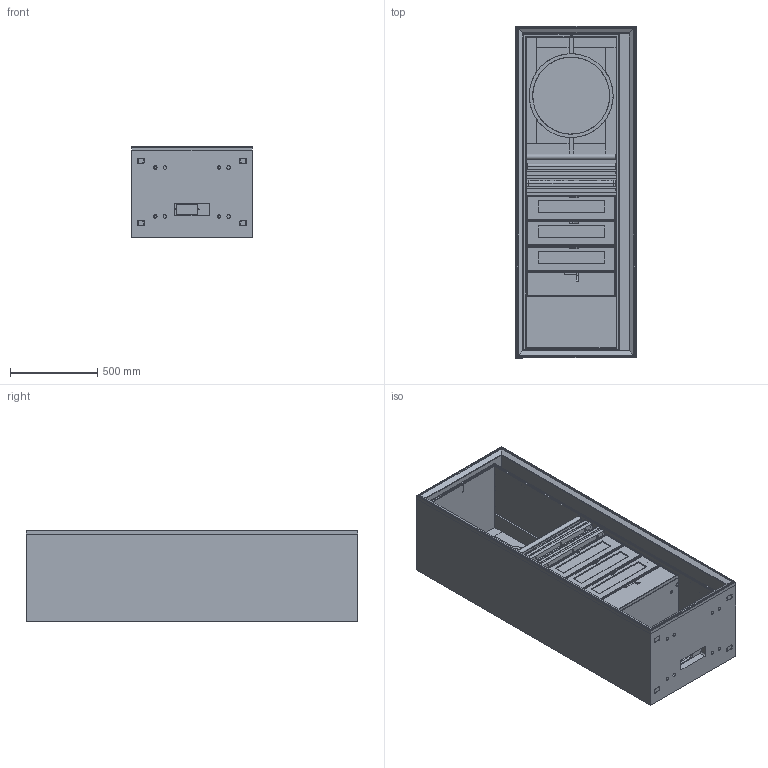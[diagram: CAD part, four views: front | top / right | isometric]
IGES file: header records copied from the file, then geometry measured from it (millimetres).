
Global section: file name: 80091; native system: Autodesk Inventor 2014; preprocessor: unknown; author: Robertom; date: 20140526.113030; units: millimetre
Bounding box: 690 x 1900 x 520 mm (x, y, z)
Volume: 233386392.7 mm3; surface area: 27427969.9 mm2
Topology: 120 solids, 120 shells, 2705 faces, 7591 edges, 5177 vertices
Faces by surface type: bspline 2705
